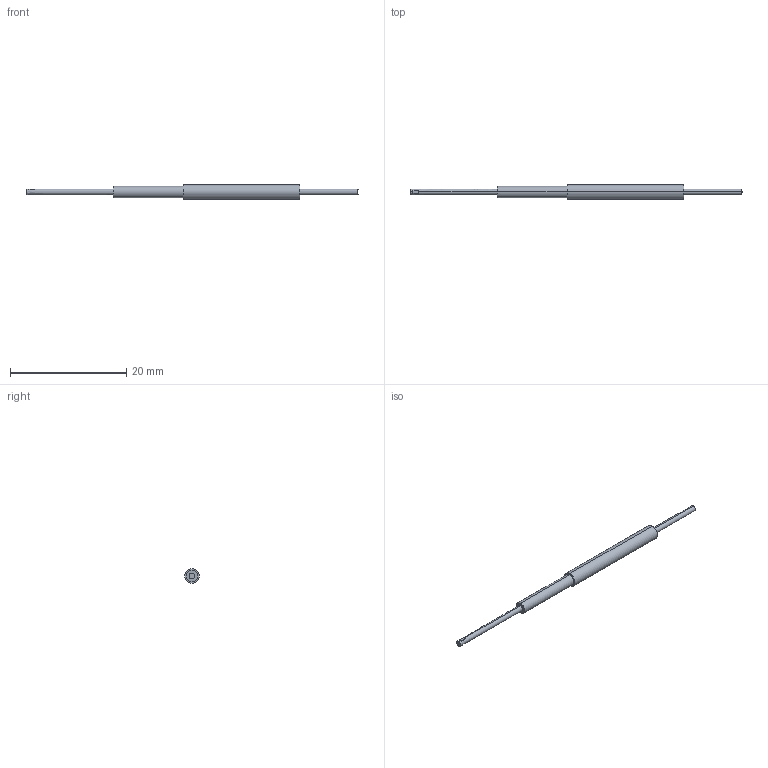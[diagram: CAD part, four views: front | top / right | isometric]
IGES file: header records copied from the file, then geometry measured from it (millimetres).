
Start section: SolidWorks IGES FILE using analytic representation for surfaces
Global section: file name: \\intra-srv04\開発データ\CAD_Data\CAD委員会\3D電子ｶﾀﾛｸﾞ\製品カタログ（新）\0_IGES\FT-WV42.IGS,41HSolidWorks 2004; native system: by SolidWorks Corporation; preprocessor: Version 5.3; author: mf1158; date: 050908.113229; units: millimetre
Bounding box: 57 x 2.5 x 2.5 mm (x, y, z)
Volume: 155.5 mm3; surface area: 321 mm2
Topology: 1 solids, 1 shells, 18 faces, 39 edges, 26 vertices
Faces by surface type: plane 10, revolution 8
